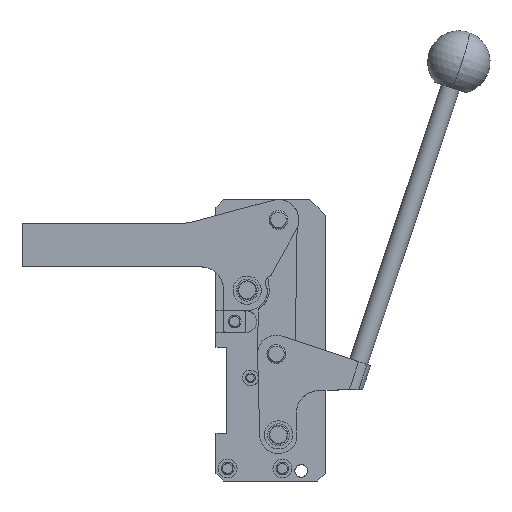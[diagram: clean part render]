
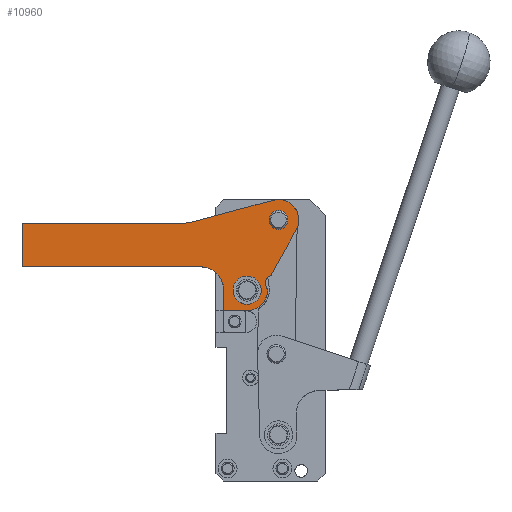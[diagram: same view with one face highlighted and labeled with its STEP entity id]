
A CAD part, top view. The second image highlights one B-rep face of the part: STEP entity #10960.
In plain terms, the highlighted planar face has unit normal (0, 0, 1).
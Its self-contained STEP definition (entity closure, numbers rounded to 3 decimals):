
#8813=AXIS2_PLACEMENT_3D('Circle Axis2P3D',#8811,#8812,$) ;
#9245=AXIS2_PLACEMENT_3D('Circle Axis2P3D',#9243,#9244,$) ;
#9285=AXIS2_PLACEMENT_3D('Circle Axis2P3D',#9283,#9284,$) ;
#9648=AXIS2_PLACEMENT_3D('Circle Axis2P3D',#9646,#9647,$) ;
#9794=AXIS2_PLACEMENT_3D('Circle Axis2P3D',#9792,#9793,$) ;
#10118=AXIS2_PLACEMENT_3D('Circle Axis2P3D',#10116,#10117,$) ;
#10201=AXIS2_PLACEMENT_3D('Circle Axis2P3D',#10199,#10200,$) ;
#10263=AXIS2_PLACEMENT_3D('Circle Axis2P3D',#10261,#10262,$) ;
#10285=AXIS2_PLACEMENT_3D('Circle Axis2P3D',#10283,#10284,$) ;
#10325=AXIS2_PLACEMENT_3D('Circle Axis2P3D',#10323,#10324,$) ;
#10361=AXIS2_PLACEMENT_3D('Circle Axis2P3D',#10359,#10360,$) ;
#10378=AXIS2_PLACEMENT_3D('Circle Axis2P3D',#10376,#10377,$) ;
#10414=AXIS2_PLACEMENT_3D('Circle Axis2P3D',#10412,#10413,$) ;
#10561=AXIS2_PLACEMENT_3D('Circle Axis2P3D',#10559,#10560,$) ;
#10583=AXIS2_PLACEMENT_3D('Circle Axis2P3D',#10581,#10582,$) ;
#10772=AXIS2_PLACEMENT_3D('Circle Axis2P3D',#10770,#10771,$) ;
#10924=AXIS2_PLACEMENT_3D('Plane Axis2P3D',#10921,#10922,#10923) ;
#8621=CARTESIAN_POINT('Vertex',(-156.09,110.188,29.)) ;
#8624=CARTESIAN_POINT('Line Origine',(-103.923,110.188,29.)) ;
#8628=CARTESIAN_POINT('Vertex',(-51.757,110.188,29.)) ;
#8710=CARTESIAN_POINT('Vertex',(-42.09,82.188,29.)) ;
#8715=CARTESIAN_POINT('Line Origine',(-99.09,82.188,29.)) ;
#8719=CARTESIAN_POINT('Vertex',(-156.09,82.188,29.)) ;
#8811=CARTESIAN_POINT('Axis2P3D Location',(-51.757,125.188,29.)) ;
#8815=CARTESIAN_POINT('Vertex',(-47.81,110.716,29.)) ;
#8922=CARTESIAN_POINT('Line Origine',(-21.632,117.73,29.)) ;
#8926=CARTESIAN_POINT('Vertex',(4.546,124.745,29.)) ;
#9243=CARTESIAN_POINT('Axis2P3D Location',(7.91,112.188,29.)) ;
#9247=CARTESIAN_POINT('Vertex',(10.835,124.855,29.)) ;
#9278=CARTESIAN_POINT('Vertex',(0.909,67.39,29.)) ;
#9283=CARTESIAN_POINT('Axis2P3D Location',(-12.09,67.188,29.)) ;
#9287=CARTESIAN_POINT('Vertex',(-12.09,54.188,29.)) ;
#9574=CARTESIAN_POINT('Vertex',(-27.09,54.188,29.)) ;
#9577=CARTESIAN_POINT('Line Origine',(-27.09,60.688,29.)) ;
#9581=CARTESIAN_POINT('Vertex',(-27.09,67.188,29.)) ;
#9646=CARTESIAN_POINT('Axis2P3D Location',(-12.09,67.188,29.)) ;
#9650=CARTESIAN_POINT('Vertex',(-6.09,67.188,29.)) ;
#9652=CARTESIAN_POINT('Vertex',(-18.09,67.188,29.)) ;
#9792=CARTESIAN_POINT('Axis2P3D Location',(-12.09,67.188,29.)) ;
#10116=CARTESIAN_POINT('Axis2P3D Location',(4.41,71.688,29.)) ;
#10120=CARTESIAN_POINT('Vertex',(0.481,68.596,29.)) ;
#10122=CARTESIAN_POINT('Vertex',(-0.59,71.688,29.)) ;
#10196=CARTESIAN_POINT('Vertex',(2.395,76.264,29.)) ;
#10199=CARTESIAN_POINT('Axis2P3D Location',(4.41,71.688,29.)) ;
#10223=CARTESIAN_POINT('Vertex',(3.338,77.124,29.)) ;
#10237=CARTESIAN_POINT('Vertex',(19.28,105.885,29.)) ;
#10240=CARTESIAN_POINT('Line Origine',(11.309,91.505,29.)) ;
#10258=CARTESIAN_POINT('Vertex',(19.79,106.908,29.)) ;
#10261=CARTESIAN_POINT('Axis2P3D Location',(7.91,112.188,29.)) ;
#10283=CARTESIAN_POINT('Axis2P3D Location',(7.91,112.188,29.)) ;
#10287=CARTESIAN_POINT('Vertex',(1.91,112.188,29.)) ;
#10289=CARTESIAN_POINT('Vertex',(13.91,112.188,29.)) ;
#10323=CARTESIAN_POINT('Axis2P3D Location',(7.91,112.188,29.)) ;
#10351=CARTESIAN_POINT('Vertex',(2.937,76.617,29.)) ;
#10359=CARTESIAN_POINT('Axis2P3D Location',(1.589,78.094,29.)) ;
#10376=CARTESIAN_POINT('Axis2P3D Location',(1.589,78.094,29.)) ;
#10402=CARTESIAN_POINT('Vertex',(0.794,68.028,29.)) ;
#10412=CARTESIAN_POINT('Axis2P3D Location',(-1.091,67.359,29.)) ;
#10537=CARTESIAN_POINT('Line Origine',(-19.59,54.188,29.)) ;
#10559=CARTESIAN_POINT('Axis2P3D Location',(-1.091,67.359,29.)) ;
#10581=CARTESIAN_POINT('Axis2P3D Location',(7.91,112.188,29.)) ;
#10770=CARTESIAN_POINT('Axis2P3D Location',(-42.09,67.188,29.)) ;
#10921=CARTESIAN_POINT('Axis2P3D Location',(-61.613,111.925,29.)) ;
#10926=CARTESIAN_POINT('Line Origine',(-156.09,96.188,29.)) ;
#8625=DIRECTION('Vector Direction',(1.,0.,0.)) ;
#8716=DIRECTION('Vector Direction',(-1.,0.,0.)) ;
#8812=DIRECTION('Axis2P3D Direction',(0.,0.,1.)) ;
#8923=DIRECTION('Vector Direction',(0.966,0.259,0.)) ;
#9244=DIRECTION('Axis2P3D Direction',(0.,0.,1.)) ;
#9284=DIRECTION('Axis2P3D Direction',(0.,0.,1.)) ;
#9578=DIRECTION('Vector Direction',(0.,1.,0.)) ;
#9647=DIRECTION('Axis2P3D Direction',(0.,0.,1.)) ;
#9793=DIRECTION('Axis2P3D Direction',(0.,0.,1.)) ;
#10117=DIRECTION('Axis2P3D Direction',(0.,0.,-1.)) ;
#10200=DIRECTION('Axis2P3D Direction',(0.,0.,-1.)) ;
#10241=DIRECTION('Vector Direction',(0.485,0.875,0.)) ;
#10262=DIRECTION('Axis2P3D Direction',(0.,0.,1.)) ;
#10284=DIRECTION('Axis2P3D Direction',(0.,0.,1.)) ;
#10324=DIRECTION('Axis2P3D Direction',(0.,0.,1.)) ;
#10360=DIRECTION('Axis2P3D Direction',(0.,0.,-1.)) ;
#10377=DIRECTION('Axis2P3D Direction',(0.,0.,-1.)) ;
#10413=DIRECTION('Axis2P3D Direction',(0.,0.,1.)) ;
#10538=DIRECTION('Vector Direction',(-1.,0.,0.)) ;
#10560=DIRECTION('Axis2P3D Direction',(0.,0.,1.)) ;
#10582=DIRECTION('Axis2P3D Direction',(0.,0.,1.)) ;
#10771=DIRECTION('Axis2P3D Direction',(0.,0.,1.)) ;
#10922=DIRECTION('Axis2P3D Direction',(0.,0.,1.)) ;
#10923=DIRECTION('Axis2P3D XDirection',(1.,0.,0.)) ;
#10927=DIRECTION('Vector Direction',(0.,1.,0.)) ;
#8626=VECTOR('Line Direction',#8625,1.) ;
#8717=VECTOR('Line Direction',#8716,1.) ;
#8924=VECTOR('Line Direction',#8923,1.) ;
#9579=VECTOR('Line Direction',#9578,1.) ;
#10242=VECTOR('Line Direction',#10241,1.) ;
#10539=VECTOR('Line Direction',#10538,1.) ;
#10928=VECTOR('Line Direction',#10927,1.) ;
#10932=ORIENTED_EDGE('',*,*,#8630,.T.) ;
#10933=ORIENTED_EDGE('',*,*,#10930,.T.) ;
#10934=ORIENTED_EDGE('',*,*,#8721,.T.) ;
#10935=ORIENTED_EDGE('',*,*,#10774,.T.) ;
#10936=ORIENTED_EDGE('',*,*,#9583,.F.) ;
#10937=ORIENTED_EDGE('',*,*,#10541,.F.) ;
#10938=ORIENTED_EDGE('',*,*,#9289,.F.) ;
#10939=ORIENTED_EDGE('',*,*,#10563,.F.) ;
#10940=ORIENTED_EDGE('',*,*,#10416,.F.) ;
#10941=ORIENTED_EDGE('',*,*,#10124,.T.) ;
#10942=ORIENTED_EDGE('',*,*,#10203,.T.) ;
#10943=ORIENTED_EDGE('',*,*,#10380,.F.) ;
#10944=ORIENTED_EDGE('',*,*,#10363,.F.) ;
#10945=ORIENTED_EDGE('',*,*,#10244,.T.) ;
#10946=ORIENTED_EDGE('',*,*,#10265,.T.) ;
#10947=ORIENTED_EDGE('',*,*,#10585,.T.) ;
#10948=ORIENTED_EDGE('',*,*,#9249,.F.) ;
#10949=ORIENTED_EDGE('',*,*,#8928,.F.) ;
#10950=ORIENTED_EDGE('',*,*,#8817,.T.) ;
#10953=ORIENTED_EDGE('',*,*,#10291,.T.) ;
#10954=ORIENTED_EDGE('',*,*,#10327,.T.) ;
#10957=ORIENTED_EDGE('',*,*,#9796,.T.) ;
#10958=ORIENTED_EDGE('',*,*,#9654,.T.) ;
#10955=FACE_BOUND('',#10952,.T.) ;
#10959=FACE_BOUND('',#10956,.T.) ;
#10960=ADVANCED_FACE('290277- Spannarm HKU 63.1',(#10951,#10955,#10959),#10925,.T.) ;
#8814=CIRCLE('generated circle',#8813,15.) ;
#9246=CIRCLE('generated circle',#9245,13.) ;
#9286=CIRCLE('generated circle',#9285,13.) ;
#9649=CIRCLE('generated circle',#9648,6.) ;
#9795=CIRCLE('generated circle',#9794,6.) ;
#10119=CIRCLE('generated circle',#10118,5.) ;
#10202=CIRCLE('generated circle',#10201,5.) ;
#10264=CIRCLE('generated circle',#10263,13.) ;
#10286=CIRCLE('generated circle',#10285,6.) ;
#10326=CIRCLE('generated circle',#10325,6.) ;
#10362=CIRCLE('generated circle',#10361,2.) ;
#10379=CIRCLE('generated circle',#10378,2.) ;
#10415=CIRCLE('generated circle',#10414,2.) ;
#10562=CIRCLE('generated circle',#10561,2.) ;
#10584=CIRCLE('generated circle',#10583,13.) ;
#10773=CIRCLE('generated circle',#10772,15.) ;
#8630=EDGE_CURVE('',#8629,#8622,#8627,.F.) ;
#8721=EDGE_CURVE('',#8720,#8711,#8718,.F.) ;
#8817=EDGE_CURVE('',#8816,#8629,#8814,.F.) ;
#8928=EDGE_CURVE('',#8816,#8927,#8925,.T.) ;
#9249=EDGE_CURVE('',#8927,#9248,#9246,.F.) ;
#9289=EDGE_CURVE('',#9279,#9288,#9286,.F.) ;
#9583=EDGE_CURVE('',#9575,#9582,#9580,.T.) ;
#9654=EDGE_CURVE('',#9651,#9653,#9649,.F.) ;
#9796=EDGE_CURVE('',#9653,#9651,#9795,.F.) ;
#10124=EDGE_CURVE('',#10121,#10123,#10119,.T.) ;
#10203=EDGE_CURVE('',#10123,#10197,#10202,.T.) ;
#10244=EDGE_CURVE('',#10224,#10238,#10243,.T.) ;
#10265=EDGE_CURVE('',#10238,#10259,#10264,.T.) ;
#10291=EDGE_CURVE('',#10288,#10290,#10286,.F.) ;
#10327=EDGE_CURVE('',#10290,#10288,#10326,.F.) ;
#10363=EDGE_CURVE('',#10224,#10352,#10362,.T.) ;
#10380=EDGE_CURVE('',#10352,#10197,#10379,.T.) ;
#10416=EDGE_CURVE('',#10121,#10403,#10415,.F.) ;
#10541=EDGE_CURVE('',#9288,#9575,#10540,.T.) ;
#10563=EDGE_CURVE('',#10403,#9279,#10562,.F.) ;
#10585=EDGE_CURVE('',#10259,#9248,#10584,.T.) ;
#10774=EDGE_CURVE('',#8711,#9582,#10773,.F.) ;
#10930=EDGE_CURVE('',#8622,#8720,#10929,.F.) ;
#10931=EDGE_LOOP('',(#10932,#10933,#10934,#10935,#10936,#10937,#10938,#10939,#10940,#10941,#10942,#10943,#10944,#10945,#10946,#10947,#10948,#10949,#10950)) ;
#10952=EDGE_LOOP('',(#10953,#10954)) ;
#10956=EDGE_LOOP('',(#10957,#10958)) ;
#10951=FACE_OUTER_BOUND('',#10931,.T.) ;
#8627=LINE('Line',#8624,#8626) ;
#8718=LINE('Line',#8715,#8717) ;
#8925=LINE('Line',#8922,#8924) ;
#9580=LINE('Line',#9577,#9579) ;
#10243=LINE('Line',#10240,#10242) ;
#10540=LINE('Line',#10537,#10539) ;
#10929=LINE('Line',#10926,#10928) ;
#10925=PLANE('Plane',#10924) ;
#8622=VERTEX_POINT('',#8621) ;
#8629=VERTEX_POINT('',#8628) ;
#8711=VERTEX_POINT('',#8710) ;
#8720=VERTEX_POINT('',#8719) ;
#8816=VERTEX_POINT('',#8815) ;
#8927=VERTEX_POINT('',#8926) ;
#9248=VERTEX_POINT('',#9247) ;
#9279=VERTEX_POINT('',#9278) ;
#9288=VERTEX_POINT('',#9287) ;
#9575=VERTEX_POINT('',#9574) ;
#9582=VERTEX_POINT('',#9581) ;
#9651=VERTEX_POINT('',#9650) ;
#9653=VERTEX_POINT('',#9652) ;
#10121=VERTEX_POINT('',#10120) ;
#10123=VERTEX_POINT('',#10122) ;
#10197=VERTEX_POINT('',#10196) ;
#10224=VERTEX_POINT('',#10223) ;
#10238=VERTEX_POINT('',#10237) ;
#10259=VERTEX_POINT('',#10258) ;
#10288=VERTEX_POINT('',#10287) ;
#10290=VERTEX_POINT('',#10289) ;
#10352=VERTEX_POINT('',#10351) ;
#10403=VERTEX_POINT('',#10402) ;
